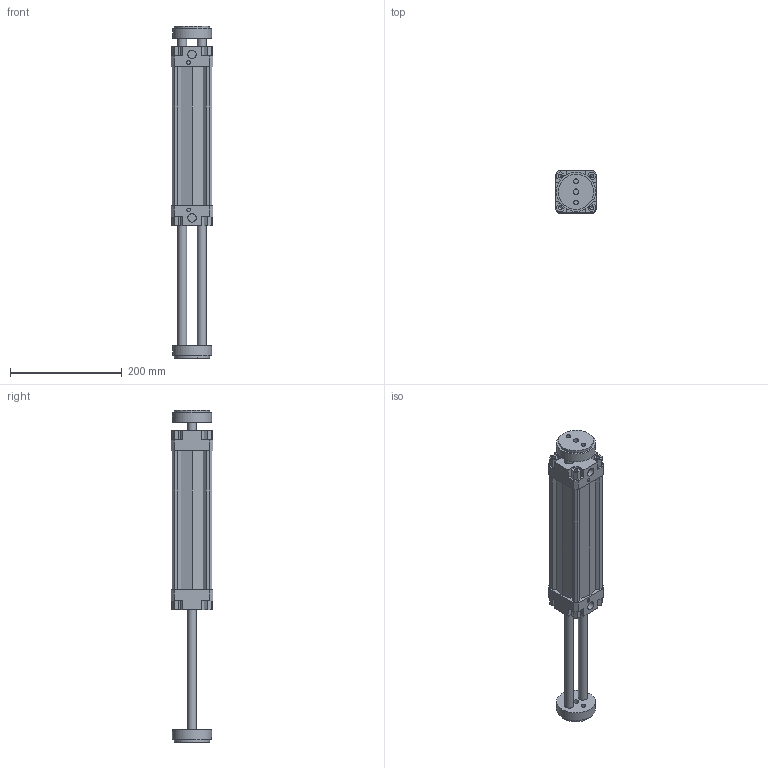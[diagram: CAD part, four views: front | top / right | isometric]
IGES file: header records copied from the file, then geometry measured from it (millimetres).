
Global section: file name: 132#_063_0200_06; native system: Autodesk Inventor 2014; preprocessor: unknown; author: A. Manieri; date: 20161006.160002; units: millimetre
Bounding box: 75 x 75 x 595 mm (x, y, z)
Volume: 1155818.7 mm3; surface area: 272488.5 mm2
Topology: 2 solids, 2 shells, 190 faces, 518 edges, 354 vertices
Faces by surface type: bspline 190
